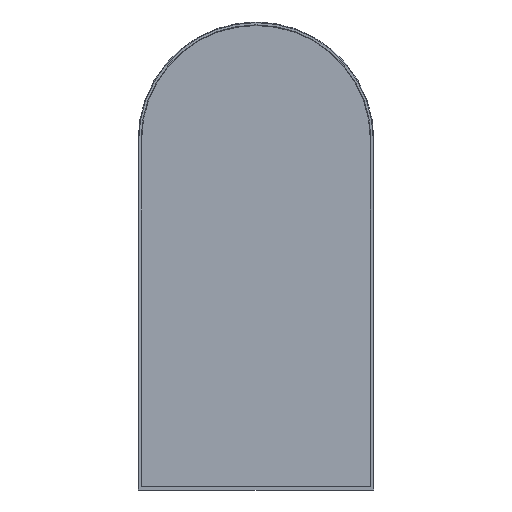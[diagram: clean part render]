
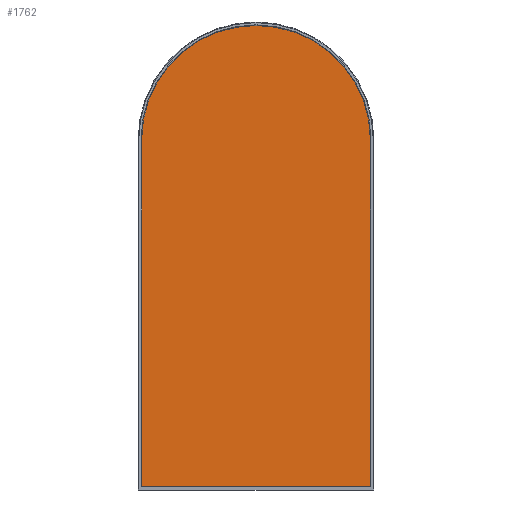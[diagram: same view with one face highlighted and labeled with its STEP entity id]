
A CAD part, front view. The second image highlights one B-rep face of the part: STEP entity #1762.
In plain terms, the highlighted planar face has unit normal (0, -1, 0).
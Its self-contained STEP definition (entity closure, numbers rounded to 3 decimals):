
#113=CIRCLE('',#1936,199.);
#308=ORIENTED_EDGE('',*,*,#726,.T.);
#309=ORIENTED_EDGE('',*,*,#738,.T.);
#310=ORIENTED_EDGE('',*,*,#739,.T.);
#311=ORIENTED_EDGE('',*,*,#740,.T.);
#726=EDGE_CURVE('',#954,#953,#1115,.T.);
#738=EDGE_CURVE('',#953,#961,#1125,.T.);
#739=EDGE_CURVE('',#961,#962,#113,.T.);
#740=EDGE_CURVE('',#962,#954,#1126,.T.);
#953=VERTEX_POINT('',#2714);
#954=VERTEX_POINT('',#2716);
#961=VERTEX_POINT('',#2740);
#962=VERTEX_POINT('',#2742);
#1115=LINE('',#2715,#1293);
#1125=LINE('',#2739,#1303);
#1126=LINE('',#2743,#1304);
#1293=VECTOR('',#2200,1000.);
#1303=VECTOR('',#2224,1000.);
#1304=VECTOR('',#2227,1000.);
#1466=EDGE_LOOP('',(#308,#309,#310,#311));
#1587=FACE_BOUND('',#1466,.T.);
#1689=PLANE('',#1935);
#1762=ADVANCED_FACE('',(#1587),#1689,.T.);
#1935=AXIS2_PLACEMENT_3D('',#2738,#2222,#2223);
#1936=AXIS2_PLACEMENT_3D('',#2741,#2225,#2226);
#2200=DIRECTION('',(1.,0.,0.));
#2222=DIRECTION('',(0.,-1.,0.));
#2223=DIRECTION('',(0.,0.,-1.));
#2224=DIRECTION('',(0.,0.,1.));
#2225=DIRECTION('',(0.,-1.,0.));
#2226=DIRECTION('',(0.,0.,-1.));
#2227=DIRECTION('',(0.,0.,-1.));
#2714=CARTESIAN_POINT('',(417.184,0.,21.739));
#2715=CARTESIAN_POINT('',(18.184,0.,21.739));
#2716=CARTESIAN_POINT('',(19.184,0.,21.739));
#2738=CARTESIAN_POINT('',(218.184,0.,621.739));
#2739=CARTESIAN_POINT('',(417.184,0.,621.739));
#2740=CARTESIAN_POINT('',(417.184,0.,621.739));
#2741=CARTESIAN_POINT('',(218.184,0.,621.739));
#2742=CARTESIAN_POINT('',(19.184,0.,621.739));
#2743=CARTESIAN_POINT('',(19.184,0.,621.739));
